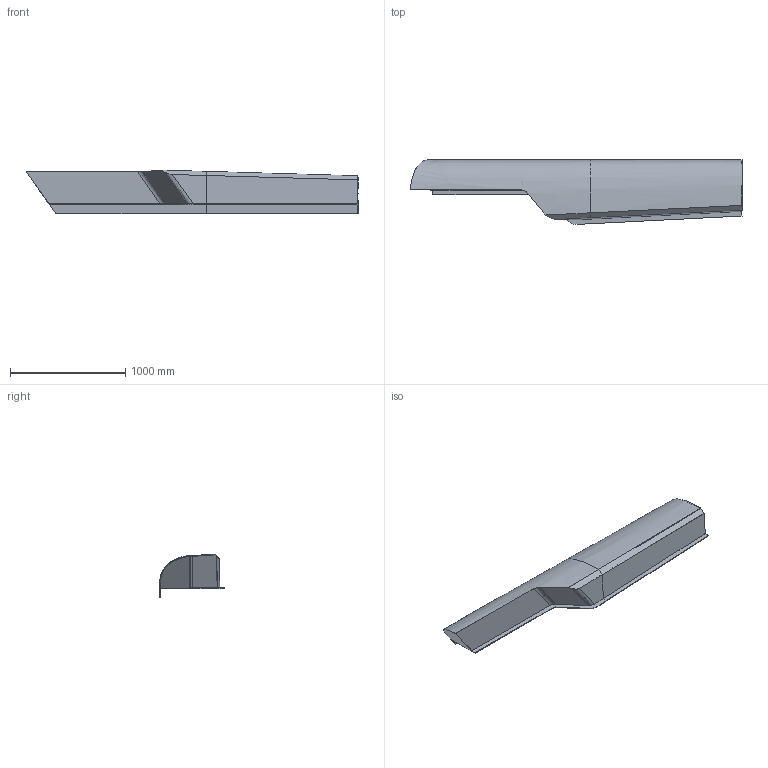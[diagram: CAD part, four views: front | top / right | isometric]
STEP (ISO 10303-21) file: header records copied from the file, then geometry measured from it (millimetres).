
FILE_DESCRIPTION(/* description */ (''),/* implementation_level */ '2;1');
FILE_NAME(/* name */ 'roof_part_2_left',/* time_stamp */ '2018-02-20T19:07:15+01:00',/* author */ (''),/* organization */ (''),/* preprocessor_version */ 'ST-DEVELOPER v14',/* originating_system */ '',/* authorisation */ '');
FILE_SCHEMA (('CONFIG_CONTROL_DESIGN'));
Length unit declared in the file: millimetre
Products named in the file (1): Document
Bounding box: 2879.03 x 561.89 x 379.34 mm (x, y, z)
Surface area: 5709608.5 mm2 (no closed solid volume)
Topology: 0 solids, 1 shells, 42 faces, 117 edges, 75 vertices
Faces by surface type: bspline 39, plane 3
Entity records: 12421 total; most frequent: CARTESIAN_POINT 11635, ORIENTED_EDGE 222, EDGE_CURVE 117, B_SPLINE_CURVE_WITH_KNOTS 110, VERTEX_POINT 75, ADVANCED_FACE 42, FACE_OUTER_BOUND 42, EDGE_LOOP 42
